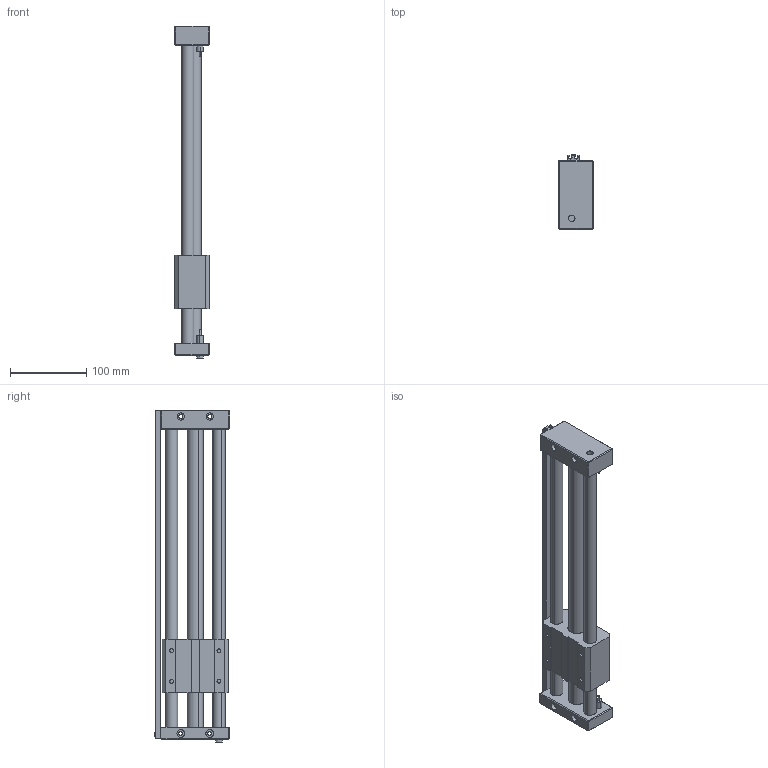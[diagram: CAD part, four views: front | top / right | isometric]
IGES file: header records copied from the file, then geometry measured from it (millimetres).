
Start section: SolidWorks IGES file using analytic representation for surfaces
Global section: file name: D:\Documents de SGA\Pieces 2D et 3D\GRU\iges\Assemblage5.IGS; native system: SolidWorks 2010; preprocessor: SolidWorks 2010; author: SGA; date: 111216.103922; units: millimetre
Bounding box: 45 x 98.53 x 435.13 mm (x, y, z)
Surface area: 169700.4 mm2 (no closed solid volume)
Topology: 0 solids, 0 shells, 211 faces, 3650 edges, 3650 vertices
Faces by surface type: bspline 111, revolution 100
